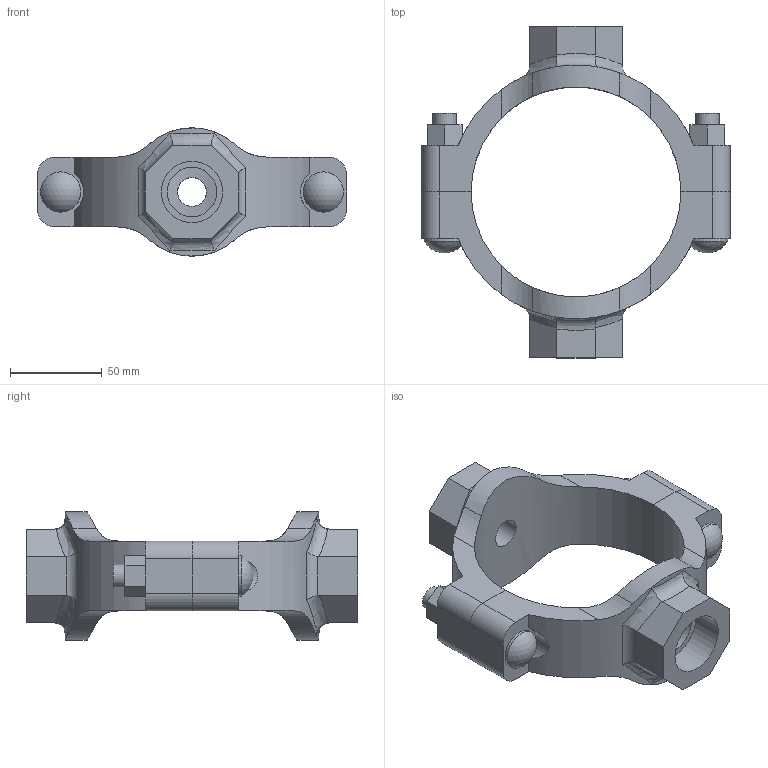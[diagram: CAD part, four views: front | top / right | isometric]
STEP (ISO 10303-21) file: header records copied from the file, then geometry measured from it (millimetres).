
FILE_DESCRIPTION(/* description */ ('VIC MECH-T BRANCH OUTLET CROSS STYLE 920N (THD)','CAx-IF Rec.Pracs.---Representation and Presentation of Product Manufacturing Information (PMI)---4.0---2014-10-13'),/* implementation_level */ '2;1');
FILE_NAME(/* name */ 'C:\Users\Vjadhav\AppData\Roaming\Autodesk\ApplicationPlugins\Back Up\Victaulic_IPS_Mechanical-Cross Outlet_Style 920N (FPT)\Victaulic_IPS_Mechanical-Cross Outlet_04.0x0.5x01.0 (100x15x25).stp',/* time_stamp */ '2020-08-06T18:57:56+05:00',/* author */ ('Vjadhav'),/* organization */ ('Victaulic'),/* preprocessor_version */ 'ST-DEVELOPER v17.2',/* originating_system */ 'Autodesk Inventor 2019',/* authorisation */ '');
FILE_SCHEMA (('AP242_MANAGED_MODEL_BASED_3D_ENGINEERING_MIM_LF { 1 0 10303 442 1 1 4 }'));
Length unit declared in the file: inch
Products named in the file (3): 920NT-04.0x0.5x01.0; 920NT-04.0x0.5; 920NT-04.0x01.0
Assembly tree (2 placements, depth 2):
  920NT-04.0x0.5x01.0
    920NT-04.0x0.5
    920NT-04.0x01.0
Bounding box: 168.4 x 180.85 x 69.82 mm (x, y, z)
Volume: 340044.2 mm3; surface area: 78531.8 mm2
Topology: 2 solids, 2 shells, 132 faces, 350 edges, 236 vertices
Faces by surface type: plane 68, cylinder 50, bspline 8, torus 4, sphere 2
Full cylindrical faces by diameter (mm): 12.7 x4, 15.799 x1, 21.336 x1, 21.982 x2, 26.987 x1, 33.401 x1
Entity records: 5234 total; most frequent: CARTESIAN_POINT 1721, ORIENTED_EDGE 700, DIRECTION 648, EDGE_CURVE 350, VERTEX_POINT 236, AXIS2_PLACEMENT_3D 231, LINE 186, VECTOR 186
